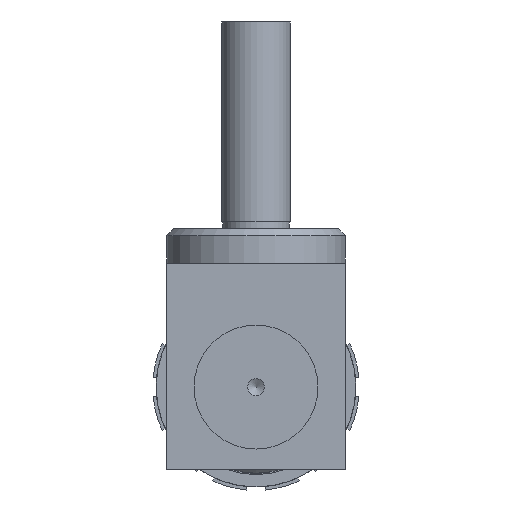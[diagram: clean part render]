
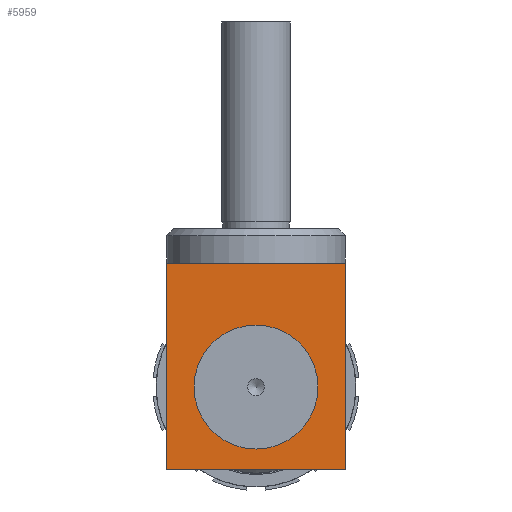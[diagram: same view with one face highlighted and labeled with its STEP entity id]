
A CAD part, left-side view. The second image highlights one B-rep face of the part: STEP entity #5959.
In plain terms, the highlighted planar face has unit normal (-1, 0, 0).
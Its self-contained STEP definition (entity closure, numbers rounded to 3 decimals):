
#399=FACE_BOUND('',#1059,.T.);
#504=PLANE('',#6768);
#706=FACE_OUTER_BOUND('',#1058,.T.);
#1058=EDGE_LOOP('',(#4168,#4169,#4170,#4171));
#1059=EDGE_LOOP('',(#4172,#4173));
#1495=LINE('',#9729,#1848);
#1496=LINE('',#9731,#1849);
#1497=LINE('',#9733,#1850);
#1498=LINE('',#9734,#1851);
#1848=VECTOR('',#7651,10.);
#1849=VECTOR('',#7652,10.);
#1850=VECTOR('',#7653,10.);
#1851=VECTOR('',#7654,10.);
#2203=CIRCLE('',#6749,9.);
#2204=CIRCLE('',#6750,9.);
#2622=VERTEX_POINT('',#9690);
#2623=VERTEX_POINT('',#9691);
#2632=VERTEX_POINT('',#9727);
#2633=VERTEX_POINT('',#9728);
#2634=VERTEX_POINT('',#9730);
#2635=VERTEX_POINT('',#9732);
#3252=EDGE_CURVE('',#2622,#2623,#2203,.T.);
#3253=EDGE_CURVE('',#2623,#2622,#2204,.T.);
#3269=EDGE_CURVE('',#2632,#2633,#1495,.T.);
#3270=EDGE_CURVE('',#2634,#2633,#1496,.T.);
#3271=EDGE_CURVE('',#2634,#2635,#1497,.T.);
#3272=EDGE_CURVE('',#2635,#2632,#1498,.T.);
#4168=ORIENTED_EDGE('',*,*,#3269,.T.);
#4169=ORIENTED_EDGE('',*,*,#3270,.F.);
#4170=ORIENTED_EDGE('',*,*,#3271,.T.);
#4171=ORIENTED_EDGE('',*,*,#3272,.T.);
#4172=ORIENTED_EDGE('',*,*,#3252,.T.);
#4173=ORIENTED_EDGE('',*,*,#3253,.T.);
#5959=ADVANCED_FACE('',(#706,#399),#504,.T.);
#6749=AXIS2_PLACEMENT_3D('',#9692,#7604,#7605);
#6750=AXIS2_PLACEMENT_3D('',#9693,#7606,#7607);
#6768=AXIS2_PLACEMENT_3D('',#9726,#7649,#7650);
#7604=DIRECTION('center_axis',(1.,0.,0.));
#7605=DIRECTION('ref_axis',(0.,0.,1.));
#7606=DIRECTION('center_axis',(1.,0.,0.));
#7607=DIRECTION('ref_axis',(0.,0.,1.));
#7649=DIRECTION('center_axis',(-1.,0.,0.));
#7650=DIRECTION('ref_axis',(0.,0.,1.));
#7651=DIRECTION('',(0.,1.,0.));
#7652=DIRECTION('',(0.,0.,1.));
#7653=DIRECTION('',(0.,-1.,0.));
#7654=DIRECTION('',(0.,0.,1.));
#9690=CARTESIAN_POINT('',(-14.724,-15.812,21.));
#9691=CARTESIAN_POINT('',(-14.724,-15.812,3.));
#9692=CARTESIAN_POINT('Origin',(-14.724,-15.812,12.));
#9693=CARTESIAN_POINT('Origin',(-14.724,-15.812,12.));
#9726=CARTESIAN_POINT('Origin',(-14.724,-28.812,0.));
#9727=CARTESIAN_POINT('',(-14.724,-28.812,30.));
#9728=CARTESIAN_POINT('',(-14.724,-2.812,30.));
#9729=CARTESIAN_POINT('',(-14.724,-2.812,30.));
#9730=CARTESIAN_POINT('',(-14.724,-2.812,0.));
#9731=CARTESIAN_POINT('',(-14.724,-2.812,0.));
#9732=CARTESIAN_POINT('',(-14.724,-28.812,0.));
#9733=CARTESIAN_POINT('',(-14.724,-2.812,0.));
#9734=CARTESIAN_POINT('',(-14.724,-28.812,0.));
